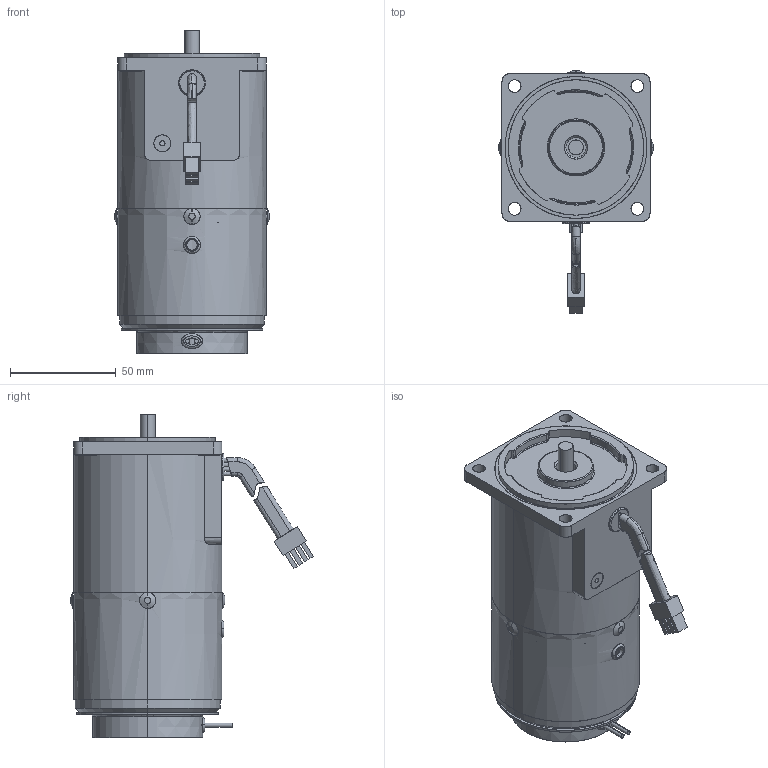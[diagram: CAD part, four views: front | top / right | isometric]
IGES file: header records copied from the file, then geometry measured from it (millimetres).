
Start section: SolidWorks IGES file using analytic representation for surfaces
Bounding box: 73 x 114.9 x 153 mm (x, y, z)
Surface area: 103609.7 mm2 (no closed solid volume)
Topology: 0 solids, 0 shells, 360 faces, 7031 edges, 7031 vertices
Faces by surface type: bspline 203, revolution 157
